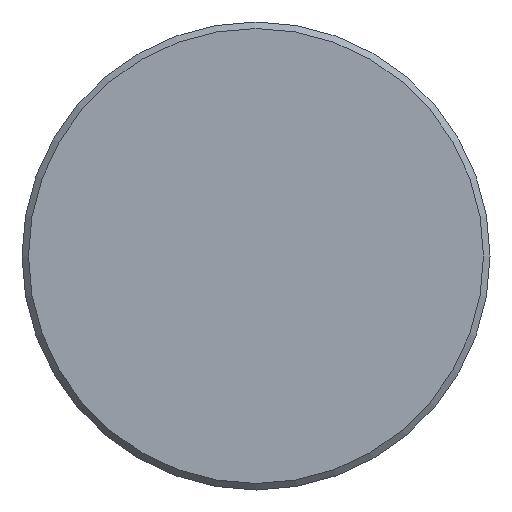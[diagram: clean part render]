
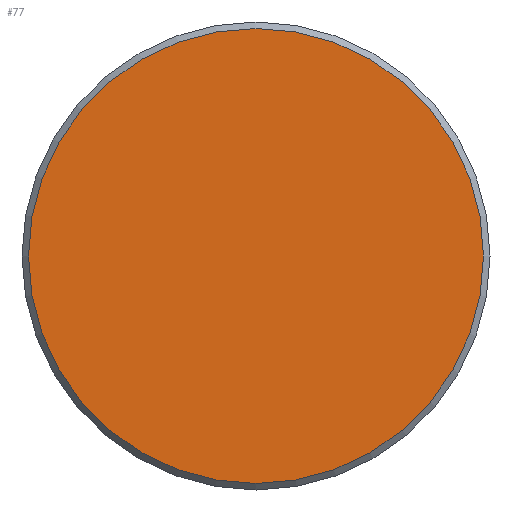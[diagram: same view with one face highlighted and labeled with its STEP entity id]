
A CAD part, front view. The second image highlights one B-rep face of the part: STEP entity #77.
In plain terms, the highlighted planar face has unit normal (0, -1, 0).
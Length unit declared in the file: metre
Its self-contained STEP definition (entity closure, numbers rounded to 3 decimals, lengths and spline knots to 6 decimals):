
#77 = ADVANCED_FACE( '', ( #90 ), #91, .T. );
#90 = FACE_OUTER_BOUND( '', #121, .T. );
#91 = PLANE( '', #122 );
#121 = EDGE_LOOP( '', ( #152 ) );
#122 = AXIS2_PLACEMENT_3D( '', #153, #154, #155 );
#152 = ORIENTED_EDGE( '', *, *, #205, .T. );
#153 = CARTESIAN_POINT( '', ( 0., 0., 0. ) );
#154 = DIRECTION( '', ( 0., -1., 0. ) );
#155 = DIRECTION( '', ( 0., 0., -1. ) );
#205 = EDGE_CURVE( '', #215, #215, #216, .T. );
#215 = VERTEX_POINT( '', #235 );
#216 = CIRCLE( '', #236, 0.0175 );
#235 = CARTESIAN_POINT( '', ( 0., 0., -0.0175 ) );
#236 = AXIS2_PLACEMENT_3D( '', #255, #256, #257 );
#255 = CARTESIAN_POINT( '', ( 0., 0., 0. ) );
#256 = DIRECTION( '', ( 0., -1., 0. ) );
#257 = DIRECTION( '', ( 0., 0., -1. ) );
